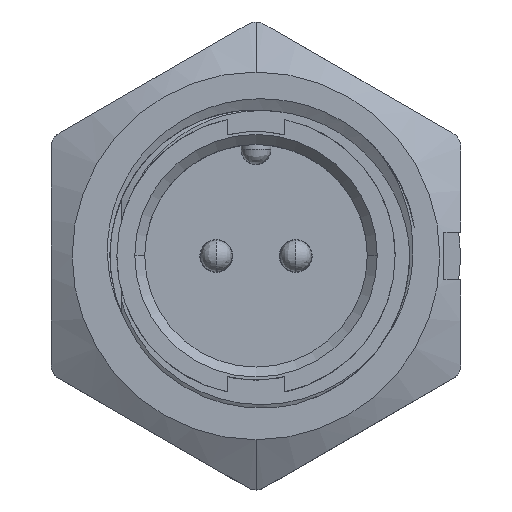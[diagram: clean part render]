
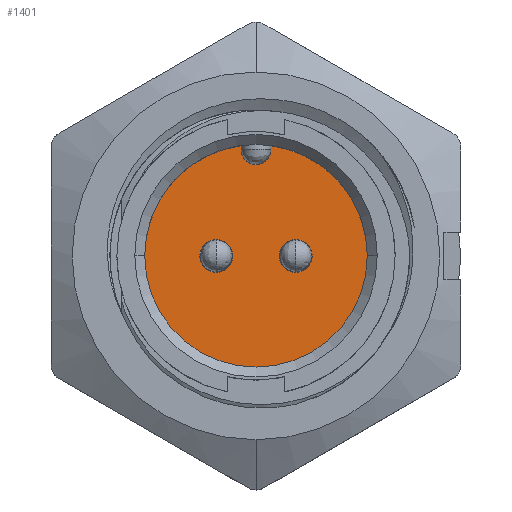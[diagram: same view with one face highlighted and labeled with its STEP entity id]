
A CAD part, top view. The second image highlights one B-rep face of the part: STEP entity #1401.
In plain terms, the highlighted planar face has unit normal (0, 0, 1).
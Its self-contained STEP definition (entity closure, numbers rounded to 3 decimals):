
#7 = CIRCLE ( 'NONE', #11971, 5.6 ) ;
#346 = EDGE_CURVE ( 'NONE', #2508, #6583, #11910, .T. ) ;
#368 = DIRECTION ( 'NONE',  ( 1., 0., 0. ) ) ;
#375 = EDGE_LOOP ( 'NONE', ( #683, #11614, #6845, #4620, #1775, #11364 ) ) ;
#442 = CARTESIAN_POINT ( 'NONE',  ( 0.75, -0.028, -9. ) ) ;
#453 = ORIENTED_EDGE ( 'NONE', *, *, #9980, .T. ) ;
#597 = DIRECTION ( 'NONE',  ( 1., 0., 0. ) ) ;
#683 = ORIENTED_EDGE ( 'NONE', *, *, #8647, .T. ) ;
#684 = AXIS2_PLACEMENT_3D ( 'NONE', #3537, #11433, #4422 ) ;
#1013 = CIRCLE ( 'NONE', #9121, 0.825 ) ;
#1115 = VERTEX_POINT ( 'NONE', #7893 ) ;
#1316 = VERTEX_POINT ( 'NONE', #11946 ) ;
#1401 = ADVANCED_FACE ( 'NONE', ( #7624, #2795, #6668 ), #12523, .T. ) ;
#1513 = AXIS2_PLACEMENT_3D ( 'NONE', #7924, #5183, #9066 ) ;
#1775 = ORIENTED_EDGE ( 'NONE', *, *, #10639, .T. ) ;
#2025 = CIRCLE ( 'NONE', #3225, 5.6 ) ;
#2090 = CARTESIAN_POINT ( 'NONE',  ( -0.75, 5.55, -9. ) ) ;
#2277 = VERTEX_POINT ( 'NONE', #4693 ) ;
#2508 = VERTEX_POINT ( 'NONE', #6064 ) ;
#2638 = CIRCLE ( 'NONE', #3847, 0.825 ) ;
#2739 = CARTESIAN_POINT ( 'NONE',  ( -1.175, 0., -9. ) ) ;
#2795 = FACE_BOUND ( 'NONE', #11265, .T. ) ;
#2837 = CIRCLE ( 'NONE', #7705, 5.6 ) ;
#3225 = AXIS2_PLACEMENT_3D ( 'NONE', #8732, #10952, #4144 ) ;
#3390 = DIRECTION ( 'NONE',  ( 0., 1., 0. ) ) ;
#3419 = DIRECTION ( 'NONE',  ( 0., -1., 0. ) ) ;
#3536 = DIRECTION ( 'NONE',  ( 1., 0., 0. ) ) ;
#3537 = CARTESIAN_POINT ( 'NONE',  ( -2., 0., -9. ) ) ;
#3842 = AXIS2_PLACEMENT_3D ( 'NONE', #9944, #7794, #5111 ) ;
#3847 = AXIS2_PLACEMENT_3D ( 'NONE', #10034, #7306, #11197 ) ;
#4144 = DIRECTION ( 'NONE',  ( 1., 0., 0. ) ) ;
#4257 = EDGE_CURVE ( 'NONE', #1316, #12138, #5126, .T. ) ;
#4355 = ORIENTED_EDGE ( 'NONE', *, *, #4257, .T. ) ;
#4422 = DIRECTION ( 'NONE',  ( 1., 0., 0. ) ) ;
#4620 = ORIENTED_EDGE ( 'NONE', *, *, #8850, .T. ) ;
#4649 = CARTESIAN_POINT ( 'NONE',  ( 2., 0., -9. ) ) ;
#4693 = CARTESIAN_POINT ( 'NONE',  ( 0.75, 5.55, -9. ) ) ;
#4867 = VERTEX_POINT ( 'NONE', #9562 ) ;
#5111 = DIRECTION ( 'NONE',  ( 1., 0., 0. ) ) ;
#5126 = CIRCLE ( 'NONE', #684, 0.825 ) ;
#5183 = DIRECTION ( 'NONE',  ( 0., 0., 1. ) ) ;
#5260 = CARTESIAN_POINT ( 'NONE',  ( 5.6, 0., -9. ) ) ;
#5745 = EDGE_LOOP ( 'NONE', ( #10436, #12065 ) ) ;
#5764 = EDGE_CURVE ( 'NONE', #4867, #11840, #9319, .T. ) ;
#5771 = CARTESIAN_POINT ( 'NONE',  ( 2.825, 0., -9. ) ) ;
#6064 = CARTESIAN_POINT ( 'NONE',  ( 1.175, 0., -9. ) ) ;
#6200 = CARTESIAN_POINT ( 'NONE',  ( 0., 0., -9. ) ) ;
#6453 = CARTESIAN_POINT ( 'NONE',  ( 2., 0., -9. ) ) ;
#6583 = VERTEX_POINT ( 'NONE', #5771 ) ;
#6668 = FACE_OUTER_BOUND ( 'NONE', #375, .T. ) ;
#6755 = CARTESIAN_POINT ( 'NONE',  ( -0.75, 5.35, -9. ) ) ;
#6845 = ORIENTED_EDGE ( 'NONE', *, *, #7795, .T. ) ;
#7021 = AXIS2_PLACEMENT_3D ( 'NONE', #6453, #11101, #3536 ) ;
#7306 = DIRECTION ( 'NONE',  ( 0., 0., -1. ) ) ;
#7624 = FACE_BOUND ( 'NONE', #5745, .T. ) ;
#7705 = AXIS2_PLACEMENT_3D ( 'NONE', #6200, #8106, #368 ) ;
#7708 = VECTOR ( 'NONE', #3390, 1000. ) ;
#7794 = DIRECTION ( 'NONE',  ( 0., 0., -1. ) ) ;
#7795 = EDGE_CURVE ( 'NONE', #11840, #12261, #9176, .T. ) ;
#7893 = CARTESIAN_POINT ( 'NONE',  ( -5.6, 0., -9. ) ) ;
#7924 = CARTESIAN_POINT ( 'NONE',  ( 0., -0.028, -9. ) ) ;
#7981 = CARTESIAN_POINT ( 'NONE',  ( 0., 0., -9. ) ) ;
#8100 = DIRECTION ( 'NONE',  ( 0., 0., 1. ) ) ;
#8106 = DIRECTION ( 'NONE',  ( 0., 0., 1. ) ) ;
#8284 = CARTESIAN_POINT ( 'NONE',  ( -0.75, -0.028, -9. ) ) ;
#8647 = EDGE_CURVE ( 'NONE', #2277, #4867, #9202, .T. ) ;
#8732 = CARTESIAN_POINT ( 'NONE',  ( 0., 0., -9. ) ) ;
#8850 = EDGE_CURVE ( 'NONE', #12261, #1115, #7, .T. ) ;
#9066 = DIRECTION ( 'NONE',  ( 1., 0., 0. ) ) ;
#9121 = AXIS2_PLACEMENT_3D ( 'NONE', #4649, #9425, #597 ) ;
#9176 = LINE ( 'NONE', #8284, #7708 ) ;
#9202 = LINE ( 'NONE', #442, #11161 ) ;
#9319 = CIRCLE ( 'NONE', #3842, 0.75 ) ;
#9371 = DIRECTION ( 'NONE',  ( 1., 0., 0. ) ) ;
#9425 = DIRECTION ( 'NONE',  ( 0., 0., -1. ) ) ;
#9537 = VERTEX_POINT ( 'NONE', #5260 ) ;
#9562 = CARTESIAN_POINT ( 'NONE',  ( 0.75, 5.35, -9. ) ) ;
#9944 = CARTESIAN_POINT ( 'NONE',  ( 0., 5.35, -9. ) ) ;
#9980 = EDGE_CURVE ( 'NONE', #12138, #1316, #2638, .T. ) ;
#10034 = CARTESIAN_POINT ( 'NONE',  ( -2., 0., -9. ) ) ;
#10253 = EDGE_CURVE ( 'NONE', #9537, #2277, #2837, .T. ) ;
#10436 = ORIENTED_EDGE ( 'NONE', *, *, #10809, .T. ) ;
#10639 = EDGE_CURVE ( 'NONE', #1115, #9537, #2025, .T. ) ;
#10809 = EDGE_CURVE ( 'NONE', #6583, #2508, #1013, .T. ) ;
#10952 = DIRECTION ( 'NONE',  ( 0., 0., 1. ) ) ;
#11101 = DIRECTION ( 'NONE',  ( 0., 0., -1. ) ) ;
#11161 = VECTOR ( 'NONE', #3419, 1000. ) ;
#11197 = DIRECTION ( 'NONE',  ( 1., 0., 0. ) ) ;
#11265 = EDGE_LOOP ( 'NONE', ( #453, #4355 ) ) ;
#11364 = ORIENTED_EDGE ( 'NONE', *, *, #10253, .T. ) ;
#11433 = DIRECTION ( 'NONE',  ( 0., 0., -1. ) ) ;
#11614 = ORIENTED_EDGE ( 'NONE', *, *, #5764, .T. ) ;
#11840 = VERTEX_POINT ( 'NONE', #6755 ) ;
#11910 = CIRCLE ( 'NONE', #7021, 0.825 ) ;
#11946 = CARTESIAN_POINT ( 'NONE',  ( -2.825, 0., -9. ) ) ;
#11971 = AXIS2_PLACEMENT_3D ( 'NONE', #7981, #8100, #9371 ) ;
#12065 = ORIENTED_EDGE ( 'NONE', *, *, #346, .T. ) ;
#12138 = VERTEX_POINT ( 'NONE', #2739 ) ;
#12261 = VERTEX_POINT ( 'NONE', #2090 ) ;
#12523 = PLANE ( 'NONE',  #1513 ) ;
